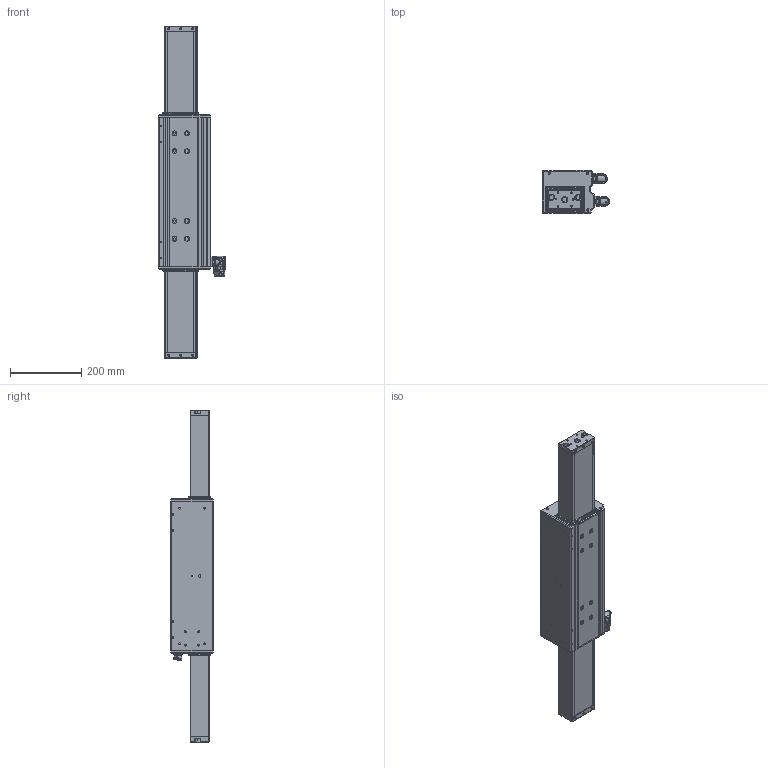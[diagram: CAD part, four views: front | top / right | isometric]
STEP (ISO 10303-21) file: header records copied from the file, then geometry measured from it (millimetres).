
FILE_DESCRIPTION (( 'STEP AP203' ), '1' );
FILE_NAME ('LDAT-S073040-XXX.STEP', '2012-05-23T06:13:32', ( '' ), ( '' ), 'SwSTEP 2.0', 'SolidWorks 2010', '' );
FILE_SCHEMA (( 'CONFIG_CONTROL_DESIGN' ));
Products named in the file (16): LDAT-S073040-XXX; Stator_frame50&75_300_Stator_frame50&75_400; stator_75-300SLDPRT; A805844-1; feedback_connector; A805844-2; A805844-3; power_connector; A805843-2; A805843-3_ASM; A805843-4; A805843-5; A805843-6; screw_m2.5_sockethead; Spring_75_300; Slider_frame75_300_LDAT-S073040-XXX
Assembly tree (32 placements, depth 5):
  LDAT-S073040-XXX
    Stator_frame50&75_300_Stator_frame50&75_400
      stator_75-300SLDPRT
      screw_m2.5_sockethead  x8
      Spring_75_300  x4
      feedback_connector
        A805844-3
        A805844-2  x2
      power_connector
        A805843-5  x4
        A805843-2  x2
        A805843-3_ASM
          A805843-4
        A805843-6  x2
      A805844-1  x2
    Slider_frame75_300_LDAT-S073040-XXX
Bounding box: 189.05 x 120 x 931.76 mm (x, y, z)
Volume: 4140892.8 mm3; surface area: 1497119.5 mm2
Topology: 35 solids, 65 shells, 7129 faces, 19981 edges, 12792 vertices
Faces by surface type: cylinder 2423, bspline 2256, plane 2011, cone 387, torus 52
Entity records: 233211 total; most frequent: CARTESIAN_POINT 126484, ORIENTED_EDGE 25179, DIRECTION 16727, EDGE_CURVE 12605, VERTEX_POINT 8232, AXIS2_PLACEMENT_3D 6126, B_SPLINE_CURVE_WITH_KNOTS 5252, EDGE_LOOP 5013
